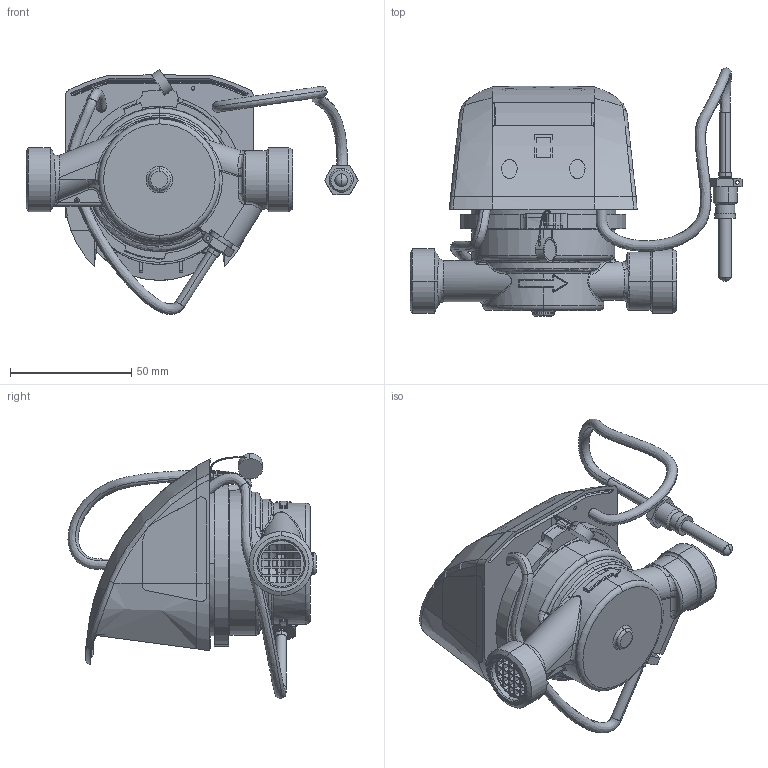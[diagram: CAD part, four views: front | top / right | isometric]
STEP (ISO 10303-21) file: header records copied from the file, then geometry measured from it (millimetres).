
FILE_DESCRIPTION (( 'STEP AP214' ), '1' );
FILE_NAME ('ELF2-JS90-0,6-TI.STEP', '2025-08-01T14:32:06', ( '' ), ( '' ), 'SwSTEP 2.0', 'SolidWorks 2019', '' );
FILE_SCHEMA (( 'AUTOMOTIVE_DESIGN' ));
Length unit declared in the file: millimetre
Products named in the file (1): ELF2-JS90-0,6-TI
Bounding box: 136.94 x 102.29 x 101.06 mm (x, y, z)
Volume: 164792.5 mm3; surface area: 119045.2 mm2
Topology: 30 solids, 31 shells, 2923 faces, 7515 edges, 4716 vertices
Faces by surface type: plane 997, bspline 598, cylinder 458, cone 435, torus 302, sphere 133
Entity records: 156708 total; most frequent: CARTESIAN_POINT 58844, ORIENTED_EDGE 14900, DIRECTION 11885, EDGE_CURVE 7450, VERTEX_POINT 4707, AXIS2_PLACEMENT_3D 4507, EDGE_LOOP 3191, UNCERTAINTY_MEASURE_WITH_UNIT 2945
